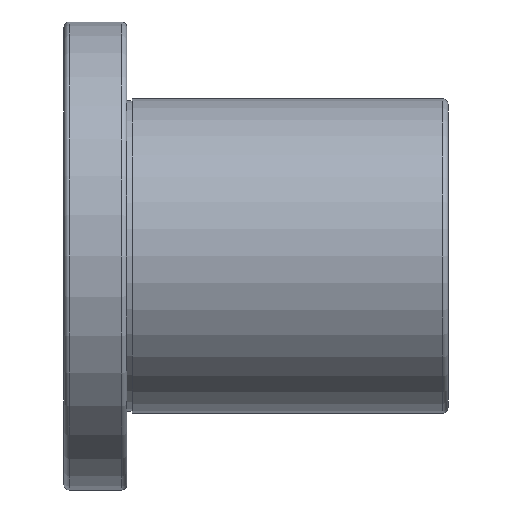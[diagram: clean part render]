
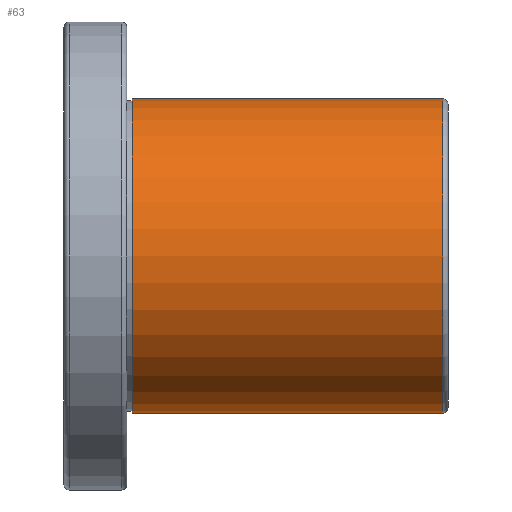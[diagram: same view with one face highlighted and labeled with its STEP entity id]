
A CAD part, front view. The second image highlights one B-rep face of the part: STEP entity #63.
In plain terms, the highlighted cylindrical face has radius 45 mm (diameter 90 mm), a full revolution.
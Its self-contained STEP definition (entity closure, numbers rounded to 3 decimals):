
#63 = ADVANCED_FACE( '', ( #146, #147 ), #148, .T. );
#146 = FACE_OUTER_BOUND( '', #269, .T. );
#147 = FACE_OUTER_BOUND( '', #270, .T. );
#148 = CYLINDRICAL_SURFACE( '', #271, 45. );
#269 = EDGE_LOOP( '', ( #398 ) );
#270 = EDGE_LOOP( '', ( #399 ) );
#271 = AXIS2_PLACEMENT_3D( '', #400, #401, #402 );
#398 = ORIENTED_EDGE( '', *, *, #549, .F. );
#399 = ORIENTED_EDGE( '', *, *, #550, .T. );
#400 = CARTESIAN_POINT( '', ( 63.9, 0., 0. ) );
#401 = DIRECTION( '', ( -1., 0., 0. ) );
#402 = DIRECTION( '', ( 0., 1., 0. ) );
#549 = EDGE_CURVE( '', #618, #618, #619, .F. );
#550 = EDGE_CURVE( '', #620, #620, #621, .F. );
#618 = VERTEX_POINT( '', #707 );
#619 = CIRCLE( '', #708, 45. );
#620 = VERTEX_POINT( '', #709 );
#621 = CIRCLE( '', #710, 45. );
#707 = CARTESIAN_POINT( '', ( 19.5, 0., -45. ) );
#708 = AXIS2_PLACEMENT_3D( '', #800, #801, #802 );
#709 = CARTESIAN_POINT( '', ( 108.5, 45., 0. ) );
#710 = AXIS2_PLACEMENT_3D( '', #803, #804, #805 );
#800 = CARTESIAN_POINT( '', ( 19.5, 0., 0. ) );
#801 = DIRECTION( '', ( 1., 0., 0. ) );
#802 = DIRECTION( '', ( 0., 0., -1. ) );
#803 = CARTESIAN_POINT( '', ( 108.5, 0., 0. ) );
#804 = DIRECTION( '', ( 1., 0., 0. ) );
#805 = DIRECTION( '', ( 0., 0., -1. ) );
